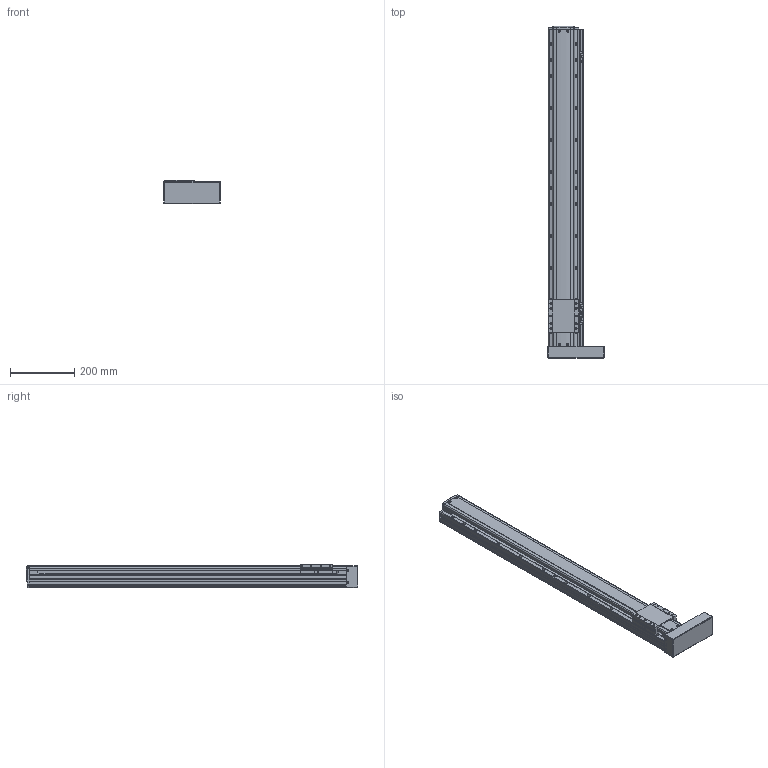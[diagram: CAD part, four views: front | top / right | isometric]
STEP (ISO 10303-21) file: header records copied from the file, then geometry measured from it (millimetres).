
FILE_DESCRIPTION(('STEP AP214'),'1');
FILE_NAME('Z:/Web/3D/PSA95/STP/PSA95-800 (3D)/PSA95ㅁㅁ-800PR+3SR.stp','2014-07-03T00:56:39',(' '),(' '),'Spatial InterOp 3D',' ',' ');
FILE_SCHEMA(('automotive_design'));
Length unit declared in the file: millimetre
Products named in the file (41): BASE; RRCV; 스크루 : Round - M4.0 x 10.0; 너트 : Square - M10.0 x 220.7419; RR1500; FRCV-090; 스크루 : Round - M4.0 x 6.0; SLBL-PA90; MOTOR PLATE COVER; 스크루 : Round - M3.0 x 6.0; EE-SX674; SBK-SX674-352; M3.0 x 6.0; SRL-16x17-380L; SGD-PA95; 스크루 : Round - M3.0 x 8.0
Bounding box: 179.13 x 1036.5 x 74 mm (x, y, z)
Volume: 5888146.3 mm3; surface area: 689403.6 mm2
Topology: 41 solids, 41 shells, 2456 faces, 6554 edges, 4202 vertices
Faces by surface type: plane 1412, cylinder 715, cone 229, sphere 62, bspline 24, torus 14
Entity records: 98584 total; most frequent: CARTESIAN_POINT 16376, DIRECTION 13044, ORIENTED_EDGE 12820, EDGE_CURVE 6410, LINE 4356, VECTOR 4356, AXIS2_PLACEMENT_3D 4344, VERTEX_POINT 4202
